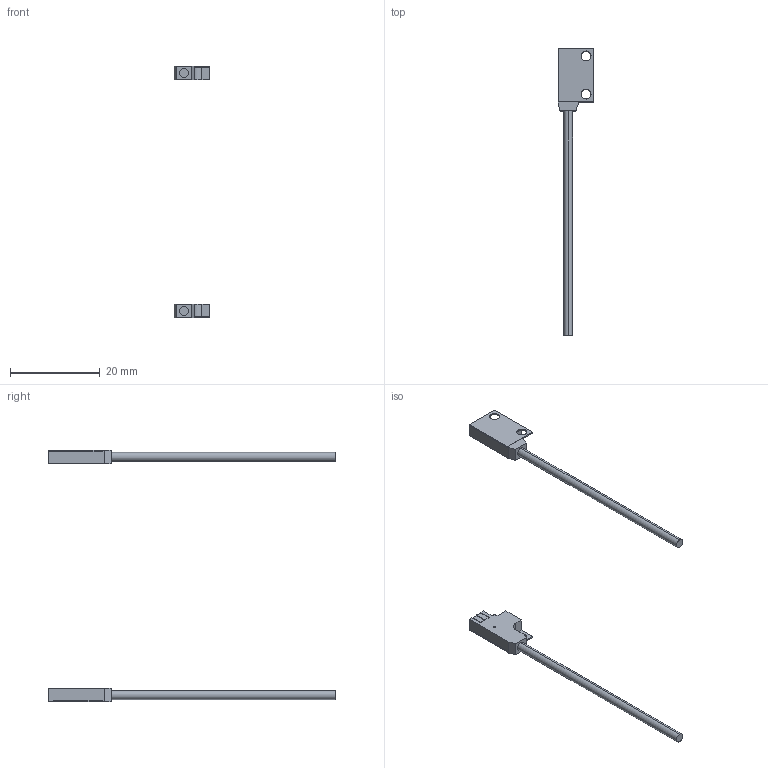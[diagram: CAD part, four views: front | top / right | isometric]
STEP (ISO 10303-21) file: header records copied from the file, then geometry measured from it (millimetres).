
FILE_DESCRIPTION (( 'STEP AP203' ), '1' );
FILE_NAME ('ex-z11fa.STEP', '2015-06-17T04:49:16', ( '' ), ( '' ), 'SwSTEP 2.0', 'SolidWorks 2010', '' );
FILE_SCHEMA (( 'CONFIG_CONTROL_DESIGN' ));
Length unit declared in the file: millimetre
Products named in the file (3): ex-z11fd; ex-z11fe; ex-z11fa
Assembly tree (2 placements, depth 2):
  ex-z11fa
    ex-z11fd
    ex-z11fe
Bounding box: 8 x 64 x 56 mm (x, y, z)
Volume: 804.4 mm3; surface area: 1563.7 mm2
Topology: 4 solids, 4 shells, 89 faces, 231 edges, 154 vertices
Faces by surface type: plane 69, cylinder 20
Entity records: 3022 total; most frequent: CARTESIAN_POINT 479, ORIENTED_EDGE 462, DIRECTION 459, EDGE_CURVE 231, LINE 191, VECTOR 191, VERTEX_POINT 154, AXIS2_PLACEMENT_3D 134
